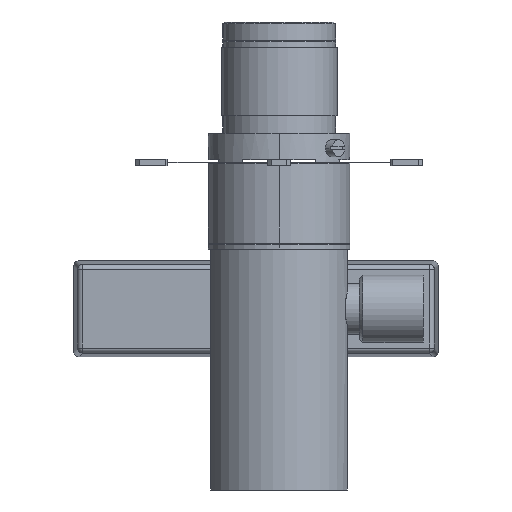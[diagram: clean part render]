
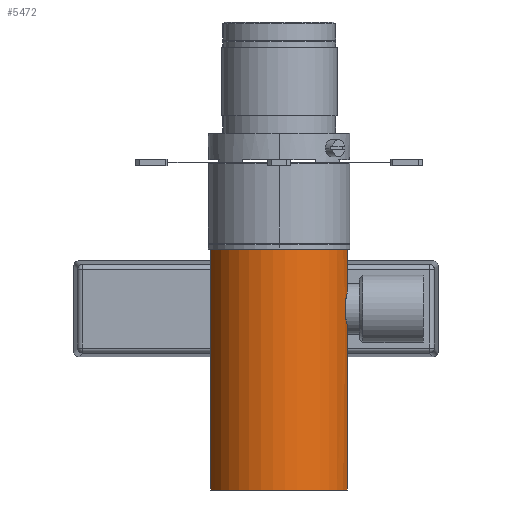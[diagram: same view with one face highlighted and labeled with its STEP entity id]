
A CAD part, front view. The second image highlights one B-rep face of the part: STEP entity #5472.
In plain terms, the highlighted cylindrical face has radius 42 mm (diameter 84 mm), a partial arc.
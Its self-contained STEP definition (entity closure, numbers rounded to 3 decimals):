
#180 = CARTESIAN_POINT ( 'NONE',  ( 39.988, 115.255, 12.845 ) ) ;
#412 = DIRECTION ( 'NONE',  ( 0., -1., 0. ) ) ;
#429 = VERTEX_POINT ( 'NONE', #7141 ) ;
#455 = VERTEX_POINT ( 'NONE', #1313 ) ;
#479 = DIRECTION ( 'NONE',  ( 0., 0., -1. ) ) ;
#594 = ORIENTED_EDGE ( 'NONE', *, *, #4787, .T. ) ;
#654 = CARTESIAN_POINT ( 'NONE',  ( 39.406, 103.722, 14.535 ) ) ;
#735 = LINE ( 'NONE', #919, #9161 ) ;
#773 = EDGE_LOOP ( 'NONE', ( #7507, #5716, #5931, #6411, #6079, #9169, #594, #3581 ) ) ;
#860 = CARTESIAN_POINT ( 'NONE',  ( 39.814, 114.303, 13.373 ) ) ;
#919 = CARTESIAN_POINT ( 'NONE',  ( 40.5, 142.5, 11.124 ) ) ;
#992 = AXIS2_PLACEMENT_3D ( 'NONE', #4095, #9166, #479 ) ;
#1255 = VERTEX_POINT ( 'NONE', #9387 ) ;
#1313 = CARTESIAN_POINT ( 'NONE',  ( 40.5, 97.438, 11.124 ) ) ;
#1327 = CARTESIAN_POINT ( 'NONE',  ( 39.978, 99.698, 12.893 ) ) ;
#1549 = CARTESIAN_POINT ( 'NONE',  ( 40.5, 117.562, 11.124 ) ) ;
#1592 = VECTOR ( 'NONE', #9409, 1000. ) ;
#1648 = CARTESIAN_POINT ( 'NONE',  ( 39.387, 111.296, 14.586 ) ) ;
#1671 = VERTEX_POINT ( 'NONE', #2390 ) ;
#1765 = EDGE_CURVE ( 'NONE', #6315, #2614, #4748, .T. ) ;
#1879 = VECTOR ( 'NONE', #7273, 1000. ) ;
#2003 = EDGE_CURVE ( 'NONE', #455, #6377, #735, .T. ) ;
#2218 = LINE ( 'NONE', #3391, #2327 ) ;
#2307 = CARTESIAN_POINT ( 'NONE',  ( 0., 0., 0. ) ) ;
#2327 = VECTOR ( 'NONE', #412, 1000. ) ;
#2390 = CARTESIAN_POINT ( 'NONE',  ( -40.5, 0., 11.124 ) ) ;
#2435 = CARTESIAN_POINT ( 'NONE',  ( 39.3, 105.157, 14.816 ) ) ;
#2614 = VERTEX_POINT ( 'NONE', #2435 ) ;
#3020 = CARTESIAN_POINT ( 'NONE',  ( 40.049, 115.561, 12.655 ) ) ;
#3039 = DIRECTION ( 'NONE',  ( 0., 1., 0. ) ) ;
#3159 = CARTESIAN_POINT ( 'NONE',  ( 40.236, 116.458, 12.053 ) ) ;
#3391 = CARTESIAN_POINT ( 'NONE',  ( 40.5, 142.5, 11.124 ) ) ;
#3529 = CARTESIAN_POINT ( 'NONE',  ( 39.711, 101.328, 13.676 ) ) ;
#3569 = DIRECTION ( 'NONE',  ( 0., 0., -1. ) ) ;
#3581 = ORIENTED_EDGE ( 'NONE', *, *, #8488, .T. ) ;
#3691 = CARTESIAN_POINT ( 'NONE',  ( 0., 142.5, 0. ) ) ;
#4095 = CARTESIAN_POINT ( 'NONE',  ( 0., 142.5, 0. ) ) ;
#4269 = CARTESIAN_POINT ( 'NONE',  ( 39.567, 102.34, 14.089 ) ) ;
#4383 = AXIS2_PLACEMENT_3D ( 'NONE', #2307, #3039, #8145 ) ;
#4439 = CYLINDRICAL_SURFACE ( 'NONE', #6789, 42. ) ;
#4470 = B_SPLINE_CURVE_WITH_KNOTS ( 'NONE', 3,
 ( #6401, #7930, #1327, #3529, #7956, #4269, #5007, #654, #9400, #7157 ),
 .UNSPECIFIED., .F., .F.,
 ( 4, 2, 2, 2, 4 ),
 ( 0., 0.004, 0.005, 0.007, 0.009 ),
 .UNSPECIFIED. ) ;
#4597 = CARTESIAN_POINT ( 'NONE',  ( 39.871, 114.626, 13.204 ) ) ;
#4628 = CIRCLE ( 'NONE', #4383, 42. ) ;
#4680 = FACE_OUTER_BOUND ( 'NONE', #773, .T. ) ;
#4748 = LINE ( 'NONE', #8701, #1879 ) ;
#4787 = EDGE_CURVE ( 'NONE', #429, #1671, #5722, .T. ) ;
#5007 = CARTESIAN_POINT ( 'NONE',  ( 39.523, 102.682, 14.21 ) ) ;
#5067 = DIRECTION ( 'NONE',  ( 0., -1., 0. ) ) ;
#5374 = CARTESIAN_POINT ( 'NONE',  ( 40.5, 117.562, 11.124 ) ) ;
#5472 = ADVANCED_FACE ( 'NONE', ( #4680 ), #4439, .T. ) ;
#5716 = ORIENTED_EDGE ( 'NONE', *, *, #8779, .T. ) ;
#5722 = LINE ( 'NONE', #6472, #1592 ) ;
#5931 = ORIENTED_EDGE ( 'NONE', *, *, #1765, .F. ) ;
#6079 = ORIENTED_EDGE ( 'NONE', *, *, #8085, .F. ) ;
#6249 = EDGE_CURVE ( 'NONE', #1255, #429, #7966, .T. ) ;
#6315 = VERTEX_POINT ( 'NONE', #6988 ) ;
#6377 = VERTEX_POINT ( 'NONE', #9226 ) ;
#6401 = CARTESIAN_POINT ( 'NONE',  ( 40.5, 97.438, 11.124 ) ) ;
#6411 = ORIENTED_EDGE ( 'NONE', *, *, #7105, .T. ) ;
#6472 = CARTESIAN_POINT ( 'NONE',  ( -40.5, 142.5, 11.124 ) ) ;
#6721 = CARTESIAN_POINT ( 'NONE',  ( 40.367, 117.026, 11.61 ) ) ;
#6789 = AXIS2_PLACEMENT_3D ( 'NONE', #3691, #5067, #3569 ) ;
#6791 = CARTESIAN_POINT ( 'NONE',  ( 39.549, 112.672, 14.154 ) ) ;
#6988 = CARTESIAN_POINT ( 'NONE',  ( 39.3, 109.843, 14.816 ) ) ;
#7105 = EDGE_CURVE ( 'NONE', #6315, #8960, #8828, .T. ) ;
#7141 = CARTESIAN_POINT ( 'NONE',  ( -40.5, 142.5, 11.124 ) ) ;
#7157 = CARTESIAN_POINT ( 'NONE',  ( 39.3, 105.157, 14.816 ) ) ;
#7273 = DIRECTION ( 'NONE',  ( 0., -1., 0. ) ) ;
#7507 = ORIENTED_EDGE ( 'NONE', *, *, #2003, .F. ) ;
#7930 = CARTESIAN_POINT ( 'NONE',  ( 40.233, 98.511, 12.095 ) ) ;
#7956 = CARTESIAN_POINT ( 'NONE',  ( 39.661, 101.663, 13.822 ) ) ;
#7966 = CIRCLE ( 'NONE', #992, 42. ) ;
#8085 = EDGE_CURVE ( 'NONE', #1255, #8960, #2218, .T. ) ;
#8145 = DIRECTION ( 'NONE',  ( 0., 0., 1. ) ) ;
#8186 = CARTESIAN_POINT ( 'NONE',  ( 39.3, 109.843, 14.816 ) ) ;
#8488 = EDGE_CURVE ( 'NONE', #1671, #6377, #4628, .T. ) ;
#8701 = CARTESIAN_POINT ( 'NONE',  ( 39.3, 142.5, 14.816 ) ) ;
#8779 = EDGE_CURVE ( 'NONE', #455, #2614, #4470, .T. ) ;
#8828 = B_SPLINE_CURVE_WITH_KNOTS ( 'NONE', 3,
 ( #8186, #1648, #6791, #860, #4597, #180, #3020, #3159, #6721, #1549 ),
 .UNSPECIFIED., .F., .F.,
 ( 4, 2, 2, 2, 4 ),
 ( 0., 0.004, 0.005, 0.007, 0.009 ),
 .UNSPECIFIED. ) ;
#8915 = DIRECTION ( 'NONE',  ( 0., -1., 0. ) ) ;
#8960 = VERTEX_POINT ( 'NONE', #5374 ) ;
#9161 = VECTOR ( 'NONE', #8915, 1000. ) ;
#9166 = DIRECTION ( 'NONE',  ( 0., -1., 0. ) ) ;
#9169 = ORIENTED_EDGE ( 'NONE', *, *, #6249, .T. ) ;
#9226 = CARTESIAN_POINT ( 'NONE',  ( 40.5, 0., 11.124 ) ) ;
#9387 = CARTESIAN_POINT ( 'NONE',  ( 40.5, 142.5, 11.124 ) ) ;
#9400 = CARTESIAN_POINT ( 'NONE',  ( 39.343, 104.431, 14.701 ) ) ;
#9409 = DIRECTION ( 'NONE',  ( 0., -1., 0. ) ) ;
